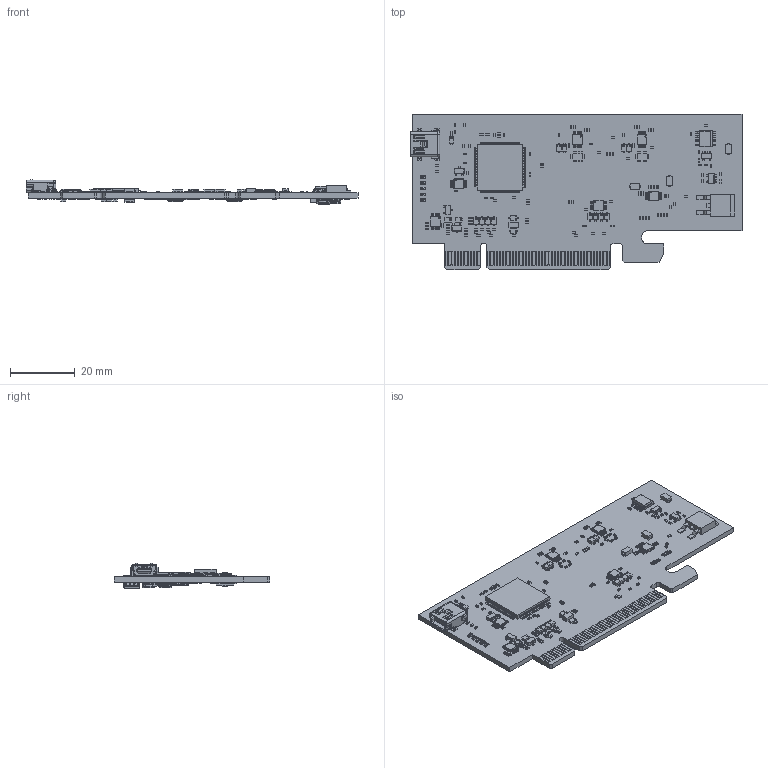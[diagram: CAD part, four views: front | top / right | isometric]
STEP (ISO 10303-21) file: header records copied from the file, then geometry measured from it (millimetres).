
FILE_DESCRIPTION (( 'STEP AP214' ), '1' );
FILE_NAME ('S84-MTM-DAQ-1.STEP', '2018-02-28T15:54:49', ( '' ), ( '' ), 'SwSTEP 2.0', 'SolidWorks 2018', '' );
FILE_SCHEMA (( 'AUTOMOTIVE_DESIGN' ));
Length unit declared in the file: millimetre
Products named in the file (21): TSSOP38; SOD323; LED_0603_Red; NRS4X4; Capacitor_0402; LED_0603_Green; PCONN00078; LQFP100; PPCBS00087; SOD123; SOT23-3; SOD882___ _________; PBULD00117_RevC; LED_0603_Yellow; VSSOP8; LED_0603_Blue; SOIC08; Resistor_0402; S84-MTM-DAQ-1; SOT23-5; TO-252
Assembly tree (304 placements, depth 3):
  S84-MTM-DAQ-1
    PBULD00117_RevC
      PPCBS00087
      Resistor_0402  x123
      Capacitor_0402  x88
      LQFP100
      VSSOP8  x6
      SOIC08  x2
      TO-252
      PCONN00078
      LED_0603_Yellow
      LED_0603_Blue  x2
      LED_0603_Green
      LED_0603_Red
      SOD882___ _________  x34
      SOD323  x24
      SOD123  x6
      TSSOP38  x2
      SOT23-5  x3
      SOT23-3  x4
      NRS4X4  x2
Bounding box: 102.69 x 48 x 7.73 mm (x, y, z)
Volume: 8054 mm3; surface area: 12857.4 mm2
Topology: 567 solids, 647 shells, 11323 faces, 27631 edges, 17404 vertices
Faces by surface type: plane 7472, cylinder 2852, bspline 533, sphere 450, cone 8, torus 8
Entity records: 172503 total; most frequent: CARTESIAN_POINT 34895, ORIENTED_EDGE 21484, DIRECTION 21449, EDGE_CURVE 10888, VECTOR 7723, LINE 7723, VERTEX_POINT 7088, AXIS2_PLACEMENT_3D 6863
